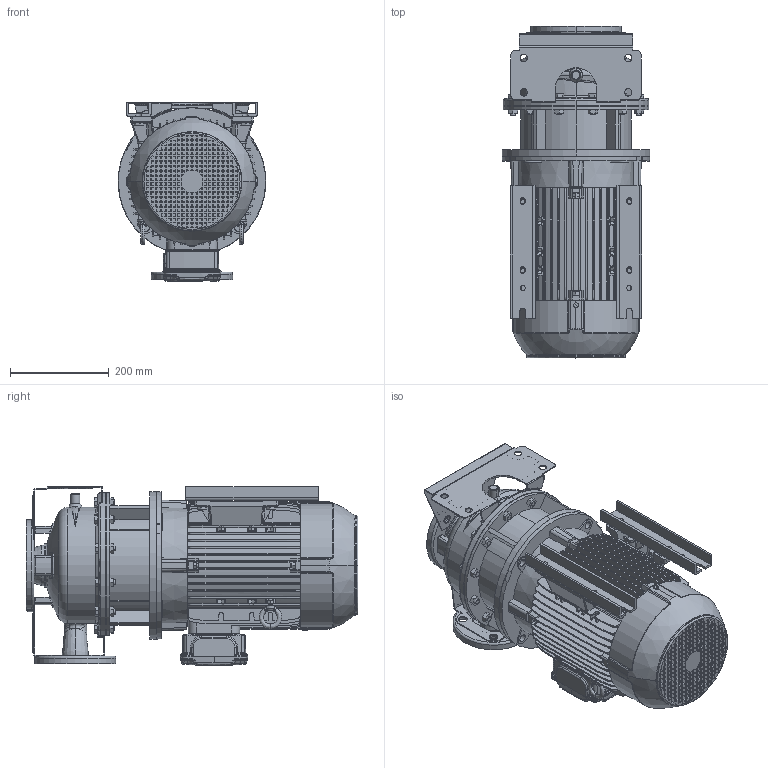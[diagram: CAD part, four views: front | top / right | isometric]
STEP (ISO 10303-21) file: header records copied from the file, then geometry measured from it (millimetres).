
FILE_DESCRIPTION (( 'STEP AP214' ), '1' );
FILE_NAME ('3LS 50-200_9.2_(132M)_W21.STEP', '2026-04-29T05:05:43', ( '' ), ( '' ), 'SwSTEP 2.0', 'SolidWorks 2024', '' );
FILE_SCHEMA (( 'AUTOMOTIVE_DESIGN' ));
Length unit declared in the file: millimetre
Products named in the file (5): 132S ALIE3W21T_B35.STEP; 3LS 50-200_9.2_(132M)_W21; Bolt & Washer M10 x 20.STEP; 50-200_9_2_ie2_STEP.STEP; 50-200_9.2.STEP
Assembly tree (7 placements, depth 3):
  3LS 50-200_9.2_(132M)_W21
    50-200_9.2.STEP
      50-200_9_2_ie2_STEP.STEP
      132S ALIE3W21T_B35.STEP
      Bolt & Washer M10 x 20.STEP  x4
Bounding box: 300 x 673.8 x 363 mm (x, y, z)
Volume: 27597201.9 mm3; surface area: 2210621.6 mm2
Topology: 18 solids, 18 shells, 4116 faces, 10650 edges, 6928 vertices
Faces by surface type: plane 2818, cylinder 775, torus 180, bspline 159, cone 152, sphere 32
Entity records: 137187 total; most frequent: CARTESIAN_POINT 38933, ORIENTED_EDGE 20868, DIRECTION 19367, EDGE_CURVE 10434, LINE 7623, VECTOR 7623, VERTEX_POINT 6802, AXIS2_PLACEMENT_3D 5872
